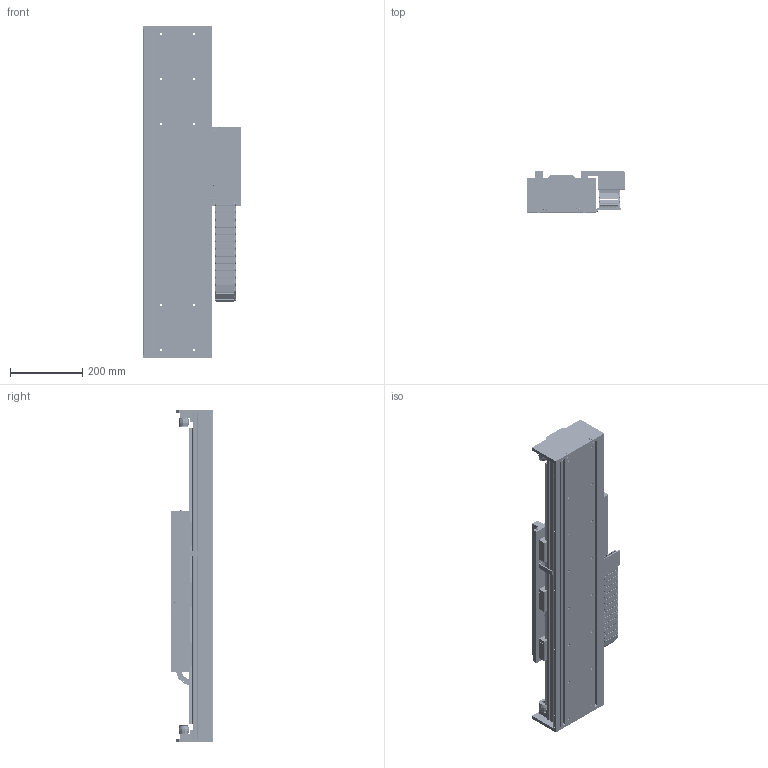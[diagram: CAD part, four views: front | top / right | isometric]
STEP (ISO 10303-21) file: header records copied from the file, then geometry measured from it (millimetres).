
FILE_DESCRIPTION (( 'STEP AP203' ), '1' );
FILE_NAME ('STF50380B-xC1B-Axx.STEP', '2007-10-29T14:46:22', ( 'Yaskawa' ), ( 'Yaskawa' ), 'SwSTEP 2.0', 'SolidWorks 2007', '' );
FILE_SCHEMA (( 'CONFIG_CONTROL_DESIGN' ));
Length unit declared in the file: millimetre
Products named in the file (62): SSR20 Rail 820_820; STCM-R1; B18.3.5M - 3 x 0.5 x 12 Socket FCHS  -- 12N_B18.3.5M - 3 x 0.5 x 12 Socket FCHS  -- 12N; STF50-006 Endplate; SGLFM-50405AC; 07.50.038.0_21; 07.50.038.0_28; 07.50.038.0_26; STF50-007 End Stop; SSR20W Block; Large Bumper; STF50 Large End Stop; STCM-005-R1 Cable Assembly Cover; STF50200 Base_STF50BM-003; STF50-380 Complete Carriage; STF50380B-xC1B-Axx; STF50-001B F50-380 Carriage; SGLFW-50A380AP; STF50-003 Renishaw Encoder Bracket; RGH22B; STF50-004 Flag; STF50-0028-R1 F50-380 Carriage Horn; STF50-005-R2 Cable Router; STCM-001-R2 Cable Bracket; STCM-002-R2 Cable Assembly Front; STCM-003 Cable Assembly Bottom; STCM-004 Cable Assembly Side; STCM-006-R1 Upper E-chain Bracket; Serial Converter; B18.3.1M - 5 x 0.8 x 12 Hex SHCS -- 12NHX_B18.3.1M - 5 x 0.8 x 12 Hex SHCS -- 12NHX; B18.3.1M - 6 x 1.0 x 25 Hex SHCS -- 25NHX_B18.3.1M - 6 x 1.0 x 25 Hex SHCS -- 25NHX; STCM-007 Lower E-Chain Bracket; STF50200C; 07.50.038.0_20; 07.50.038.0_27; 07.50.038.0_22; 07.50.038.0_23; 07.50.038.0_35; 07.50.038.0_24; 07.50.038.0_25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
Assembly tree (190 placements, depth 4):
  STF50380B-xC1B-Axx
    B18.3.1M - 5 x 0.8 x 16 Hex SHCS -- 16NHX_B18.3.1M - 5 x 0.8 x 16 Hex SHCS -- 16NHX  x60
    STF50-006 Endplate  x2
    STF50 Large End Stop  x4
      STF50-007 End Stop
      Large Bumper
    STF50-380 Complete Carriage
      RGH22B
      B18.3.1M - 5 x 0.8 x 12 Hex SHCS -- 12NHX_B18.3.1M - 5 x 0.8 x 12 Hex SHCS -- 12NHX  x34
      B18.3.1M - 6 x 1.0 x 25 Hex SHCS -- 25NHX_B18.3.1M - 6 x 1.0 x 25 Hex SHCS -- 25NHX  x10
      B18.3.5M - 3 x 0.5 x 12 Socket FCHS  -- 12N_B18.3.5M - 3 x 0.5 x 12 Socket FCHS  -- 12N  x6
      STF50-0028-R1 F50-380 Carriage Horn  x2
      STF50-005-R2 Cable Router
      STF50-003 Renishaw Encoder Bracket
      SSR20W Block  x6
      STF50-001B F50-380 Carriage
      B18.3.4M - 3 x 0.5 x 12 SBHCS --N_B18.3.4M - 3 x 0.5 x 12 SBHCS --N  x3
      STCM-R1
        STCM-001-R2 Cable Bracket
        STCM-004 Cable Assembly Side
        STCM-005-R1 Cable Assembly Cover
        Serial Converter
        STCM-002-R2 Cable Assembly Front
        STCM-006-R1 Upper E-chain Bracket
        STCM-003 Cable Assembly Bottom
      SGLFW-50A380AP
      STF50-004 Flag
    B18.3.1M - 6 x 1.0 x 12 Hex SHCS -- 12NHX_B18.3.1M - 6 x 1.0 x 12 Hex SHCS -- 12NHX  x4
    STCM-007 Lower E-Chain Bracket
    SGLFM-50405AC  x2
    SSR20 Rail 820_820  x2
    STF50200 Base_STF50BM-003
    STF50200C
      07.50.038.0_32  x3
      B18.3.5M - 3 x 0.5 x 6 Socket FCHS  -- 6N_B18.3.5M - 3 x 0.5 x 6 Socket FCHS  -- 6N  x2
      07.50.038.0_38
      07.50.038.0_29
      07.50.038.0_39
      07.50.038.0_43
      07.50.038.0_31  x2
      07.50.038.0_28
      07.50.038.0_24
      07.50.038.0_42
      07.50.038.0_25
      07.50.038.0_21
      07.50.038.0_46
      07.50.038.0_36
      07.50.038.0_22
      07.50.038.0_23
      07.50.038.0_45
      07.50.038.0_27
      07.50.038.0_47
      07.50.038.0_35
      07.50.038.0_30
      07.50.038.0_44
      07.50.038.0_37
      07.50.038.0_26
      07.50.038.0_33
      07.50.038.0_34
      07.50.038.0_41
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Bounding box: 269.74 x 115.5 x 919.05 mm (x, y, z)
Volume: 9263403.2 mm3; surface area: 2037019.2 mm2
Topology: 218 solids, 218 shells, 8084 faces, 19746 edges, 12149 vertices
Faces by surface type: plane 4234, cylinder 2514, cone 1072, torus 246, sphere 10, bspline 8
Entity records: 132500 total; most frequent: DIRECTION 21944, CARTESIAN_POINT 21521, ORIENTED_EDGE 20168, EDGE_CURVE 10084, AXIS2_PLACEMENT_3D 7748, VERTEX_POINT 6591, LINE 6448, VECTOR 6448
